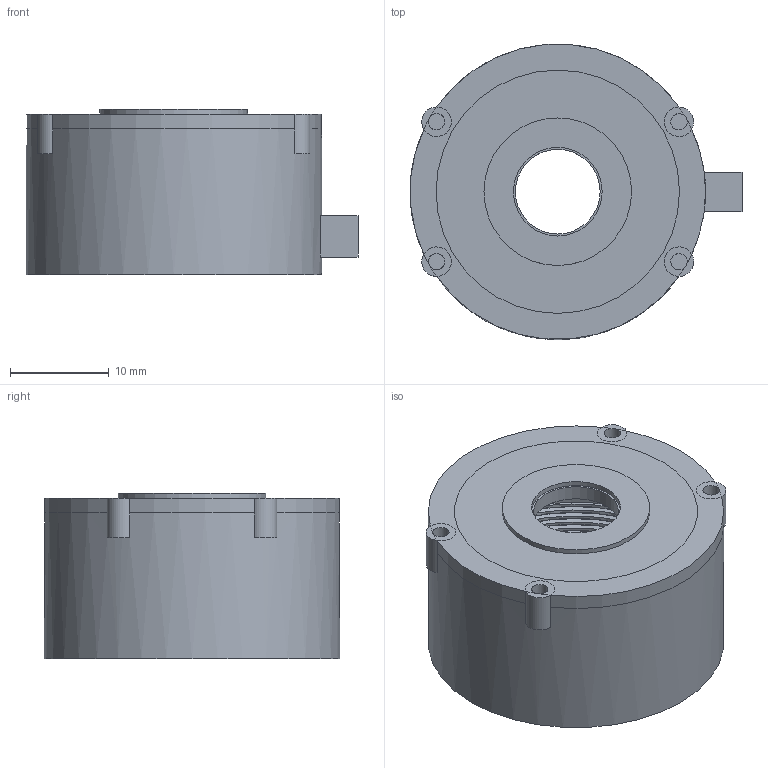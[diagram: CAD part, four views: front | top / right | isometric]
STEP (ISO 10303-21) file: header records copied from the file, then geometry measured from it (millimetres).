
FILE_DESCRIPTION(('Open CASCADE Model'),'2;1');
FILE_NAME('Open CASCADE Shape Model','2026-09-24T02:53:18',('Author'),( 'Open CASCADE'),'Open CASCADE STEP processor 7.8','Open CASCADE 7.8' ,'Unknown');
FILE_SCHEMA(('AUTOMOTIVE_DESIGN { 1 0 10303 214 1 1 1 1 }'));
Products named in the file (1): Open CASCADE STEP translator 7.8 1
Bounding box: 33.7 x 30 x 16.8 mm (x, y, z)
Volume: 3267.8 mm3; surface area: 4708.5 mm2
Topology: 1 solids, 1 shells, 154 faces, 427 edges, 279 vertices
Faces by surface type: bspline 69, cylinder 46, plane 39
Full cylindrical faces by diameter (mm): 1.66 x5, 8.6 x1, 9 x1, 14.98 x1, 30 x1
Entity records: 48932 total; most frequent: CARTESIAN_POINT 41928, ORIENTED_EDGE 854, PCURVE 854, DEFINITIONAL_REPRESENTATION 854, DIRECTION 774, B_SPLINE_CURVE_WITH_KNOTS 759, EDGE_CURVE 427, SURFACE_CURVE 417
